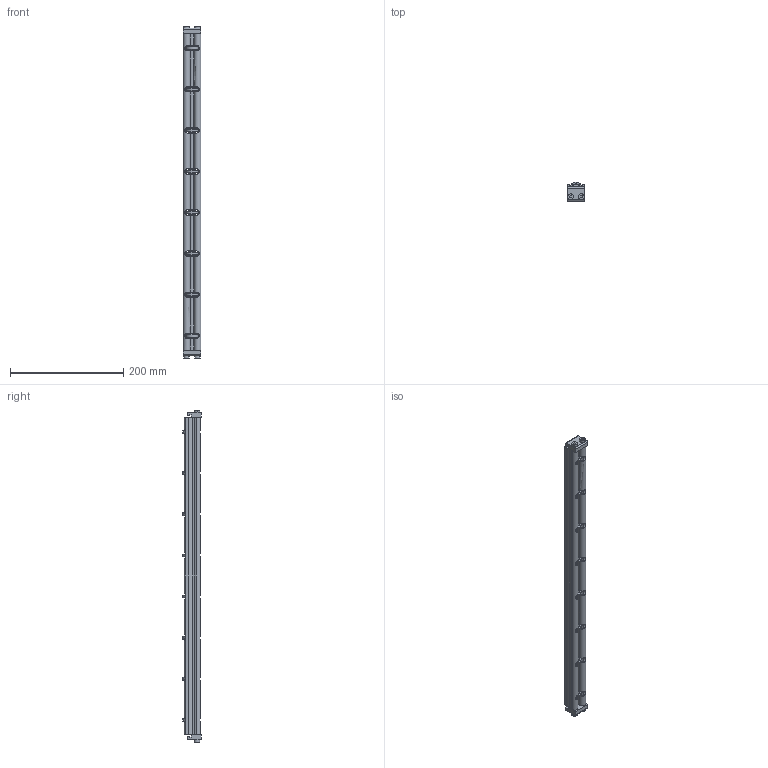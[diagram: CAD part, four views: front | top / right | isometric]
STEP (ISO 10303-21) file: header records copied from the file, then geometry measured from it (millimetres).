
FILE_DESCRIPTION((''),'2;1');
FILE_NAME('324922_ASM','2023-03-14T',('jenni.wallner'),(''),'PRO/ENGINEER BY PARAMETRIC TECHNOLOGY CORPORATION, 2012420','PRO/ENGINEER BY PARAMETRIC TECHNOLOGY CORPORATION, 2012420','');
FILE_SCHEMA(('CONFIG_CONTROL_DESIGN'));
Length unit declared in the file: inch
Products named in the file (7): 240827_CAE; X920693M; 240826; 2436WW_243622; 2410WW_CAE_241022; ASM0001_ASM; 324922_ASM
Assembly tree (17 placements, depth 3):
  324922_ASM
    ASM0001_ASM
      240827_CAE  x2
      X920693M  x4
      240826  x8
      2436WW_243622
      2410WW_CAE_241022
Bounding box: 30.88 x 33.34 x 586.21 mm (x, y, z)
Volume: 277609.6 mm3; surface area: 166849.5 mm2
Topology: 16 solids, 16 shells, 524 faces, 1472 edges, 972 vertices
Faces by surface type: cylinder 238, plane 186, cone 68, torus 32
Entity records: 12886 total; most frequent: CARTESIAN_POINT 3484, ORIENTED_EDGE 2064, DIRECTION 1884, EDGE_CURVE 1032, AXIS2_PLACEMENT_3D 700, VERTEX_POINT 688, VECTOR 484, LINE 484
